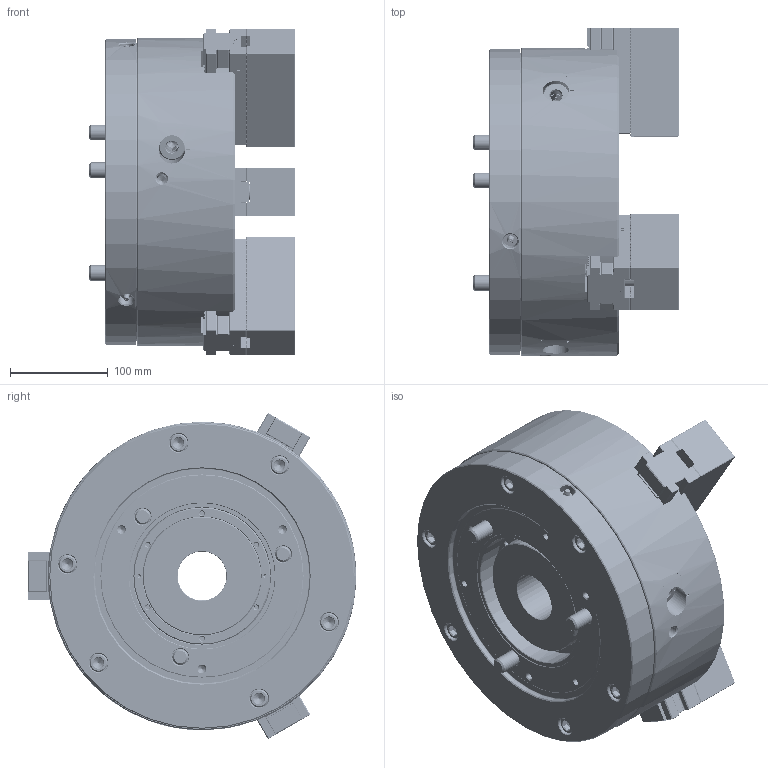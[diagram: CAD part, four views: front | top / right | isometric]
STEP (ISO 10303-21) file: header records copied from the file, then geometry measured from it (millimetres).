
FILE_DESCRIPTION (( 'STEP AP214' ), '1' );
FILE_NAME ('QJR12_61P261583-3_UC.STEP', '2026-03-16T04:47:13', ( '' ), ( '' ), 'SwSTEP 2.0', 'SolidWorks 2022', '' );
FILE_SCHEMA (( 'AUTOMOTIVE_DESIGN' ));
Length unit declared in the file: millimetre
Products named in the file (7): Copy of 0030116045^DT1_QJR12; DT1_QJR12_BASEJAW^DT1_QJR12; DT1_QJR12_DRAWNUT^DT1_QJR12; DT1_QJR12_M16x130^DT1_QJR12; DT1_QJR12_BASE^DT1_QJR12; QJR12_61P261583-3_UC; DT1_QJR12_SOFTJAW^DT1_QJR12
Assembly tree (17 placements, depth 2):
  QJR12_61P261583-3_UC
    DT1_QJR12_DRAWNUT^DT1_QJR12
    DT1_QJR12_SOFTJAW^DT1_QJR12  x3
    DT1_QJR12_M16x130^DT1_QJR12  x3
    DT1_QJR12_BASEJAW^DT1_QJR12  x3
    DT1_QJR12_BASE^DT1_QJR12
    Copy of 0030116045^DT1_QJR12  x6
Bounding box: 210 x 335.42 x 332.76 mm (x, y, z)
Volume: 9834047.3 mm3; surface area: 784362.1 mm2
Topology: 17 solids, 95 shells, 9592 faces, 26484 edges, 17200 vertices
Faces by surface type: plane 6196, cylinder 1452, bspline 1051, cone 720, torus 107, sphere 66
Entity records: 247855 total; most frequent: CARTESIAN_POINT 100851, ORIENTED_EDGE 32980, DIRECTION 25947, EDGE_CURVE 16490, VECTOR 11001, LINE 11001, VERTEX_POINT 10735, AXIS2_PLACEMENT_3D 7473
